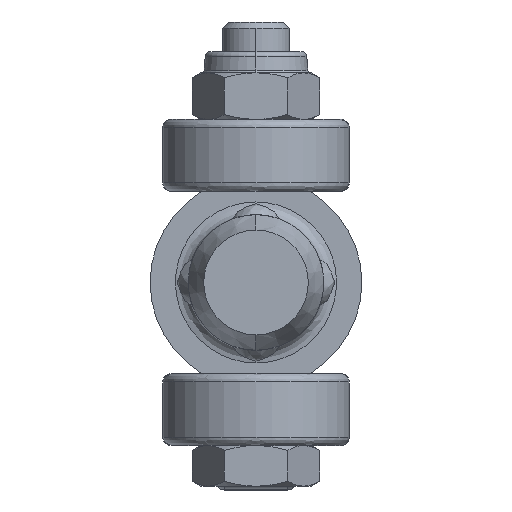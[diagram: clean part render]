
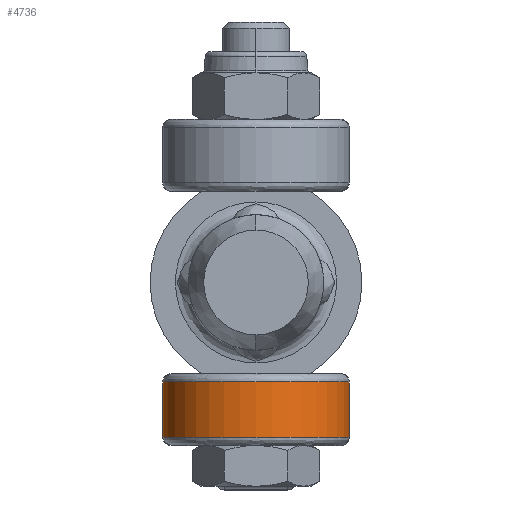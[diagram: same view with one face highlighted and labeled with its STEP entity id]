
A CAD part, front view. The second image highlights one B-rep face of the part: STEP entity #4736.
In plain terms, the highlighted cylindrical face has radius 11 mm (diameter 22 mm), a partial arc.
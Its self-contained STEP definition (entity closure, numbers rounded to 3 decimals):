
#46 = AXIS2_PLACEMENT_3D ( 'NONE', #1103, #7520, #5998 ) ;
#195 = CARTESIAN_POINT ( 'NONE',  ( 0., 10.75, -11. ) ) ;
#663 = CARTESIAN_POINT ( 'NONE',  ( 0., 18.25, 11. ) ) ;
#751 = VERTEX_POINT ( 'NONE', #2816 ) ;
#758 = DIRECTION ( 'NONE',  ( 0., 1., 0. ) ) ;
#848 = VERTEX_POINT ( 'NONE', #663 ) ;
#878 = DIRECTION ( 'NONE',  ( 0., 0., 1. ) ) ;
#1103 = CARTESIAN_POINT ( 'NONE',  ( 0., 10.75, 0. ) ) ;
#1541 = CARTESIAN_POINT ( 'NONE',  ( 0., 11.75, 0. ) ) ;
#1660 = ORIENTED_EDGE ( 'NONE', *, *, #5775, .T. ) ;
#2197 = EDGE_LOOP ( 'NONE', ( #5296, #3192, #1660, #5222 ) ) ;
#2462 = LINE ( 'NONE', #195, #4288 ) ;
#2568 = AXIS2_PLACEMENT_3D ( 'NONE', #4873, #8966, #878 ) ;
#2816 = CARTESIAN_POINT ( 'NONE',  ( 0., 11.75, -11. ) ) ;
#3072 = EDGE_CURVE ( 'NONE', #848, #9869, #8104, .T. ) ;
#3192 = ORIENTED_EDGE ( 'NONE', *, *, #9361, .T. ) ;
#4288 = VECTOR ( 'NONE', #8081, 1000. ) ;
#4736 = ADVANCED_FACE ( 'NONE', ( #8308 ), #9931, .T. ) ;
#4873 = CARTESIAN_POINT ( 'NONE',  ( 0., 18.25, 0. ) ) ;
#5153 = CIRCLE ( 'NONE', #9841, 11. ) ;
#5222 = ORIENTED_EDGE ( 'NONE', *, *, #3072, .T. ) ;
#5296 = ORIENTED_EDGE ( 'NONE', *, *, #7943, .F. ) ;
#5416 = CARTESIAN_POINT ( 'NONE',  ( 0., 10.75, 11. ) ) ;
#5775 = EDGE_CURVE ( 'NONE', #10365, #848, #6201, .T. ) ;
#5998 = DIRECTION ( 'NONE',  ( 0., 0., 1. ) ) ;
#6201 = LINE ( 'NONE', #5416, #10293 ) ;
#6235 = CARTESIAN_POINT ( 'NONE',  ( 0., 18.25, -11. ) ) ;
#7152 = DIRECTION ( 'NONE',  ( 0., 1., 0. ) ) ;
#7520 = DIRECTION ( 'NONE',  ( 0., 1., 0. ) ) ;
#7917 = DIRECTION ( 'NONE',  ( 0., 0., 1. ) ) ;
#7943 = EDGE_CURVE ( 'NONE', #751, #9869, #2462, .T. ) ;
#8081 = DIRECTION ( 'NONE',  ( 0., 1., 0. ) ) ;
#8104 = CIRCLE ( 'NONE', #2568, 11. ) ;
#8308 = FACE_OUTER_BOUND ( 'NONE', #2197, .T. ) ;
#8966 = DIRECTION ( 'NONE',  ( 0., -1., 0. ) ) ;
#9361 = EDGE_CURVE ( 'NONE', #751, #10365, #5153, .T. ) ;
#9841 = AXIS2_PLACEMENT_3D ( 'NONE', #1541, #758, #7917 ) ;
#9869 = VERTEX_POINT ( 'NONE', #6235 ) ;
#9931 = CYLINDRICAL_SURFACE ( 'NONE', #46, 11. ) ;
#10098 = CARTESIAN_POINT ( 'NONE',  ( 0., 11.75, 11. ) ) ;
#10293 = VECTOR ( 'NONE', #7152, 1000. ) ;
#10365 = VERTEX_POINT ( 'NONE', #10098 ) ;
